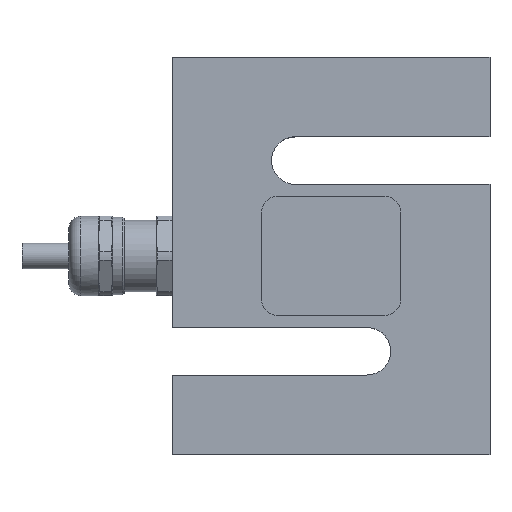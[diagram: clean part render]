
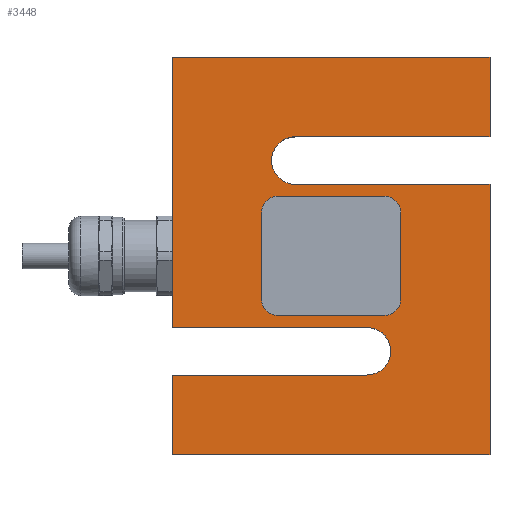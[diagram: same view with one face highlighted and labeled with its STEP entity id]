
A CAD part, top view. The second image highlights one B-rep face of the part: STEP entity #3448.
In plain terms, the highlighted planar face has unit normal (0, 0, 1).
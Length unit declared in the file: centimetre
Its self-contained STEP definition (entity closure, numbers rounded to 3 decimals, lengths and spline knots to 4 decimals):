
#845=VECTOR('',#3992,1.);
#848=VECTOR('',#4000,1.);
#857=VECTOR('',#4030,1.);
#862=VECTOR('',#4053,1.);
#869=VECTOR('',#4075,1.);
#874=VECTOR('',#4095,1.);
#881=VECTOR('',#4117,1.);
#882=VECTOR('',#4119,1.);
#887=VECTOR('',#4125,1.);
#889=VECTOR('',#4128,1.);
#890=VECTOR('',#4129,1.);
#891=VECTOR('',#4130,1.);
#1051=LINE('',#4827,#845);
#1054=LINE('',#4835,#848);
#1063=LINE('',#4866,#857);
#1068=LINE('',#4888,#862);
#1075=LINE('',#4908,#869);
#1080=LINE('',#4931,#874);
#1087=LINE('',#5057,#881);
#1088=LINE('',#5059,#882);
#1093=LINE('',#5069,#887);
#1095=LINE('',#5074,#889);
#1096=LINE('',#5075,#890);
#1097=LINE('',#5077,#891);
#1264=VERTEX_POINT('',#4820);
#1265=VERTEX_POINT('',#4822);
#1266=VERTEX_POINT('',#4826);
#1267=VERTEX_POINT('',#4830);
#1268=VERTEX_POINT('',#4834);
#1278=VERTEX_POINT('',#4865);
#1279=VERTEX_POINT('',#4867);
#1284=VERTEX_POINT('',#4883);
#1285=VERTEX_POINT('',#4885);
#1289=VERTEX_POINT('',#4903);
#1294=VERTEX_POINT('',#4921);
#1299=VERTEX_POINT('',#4930);
#1301=VERTEX_POINT('',#4986);
#1304=VERTEX_POINT('',#5042);
#1305=VERTEX_POINT('',#5044);
#1310=VERTEX_POINT('',#5056);
#1311=VERTEX_POINT('',#5060);
#1314=VERTEX_POINT('',#5068);
#1315=VERTEX_POINT('',#5070);
#1317=VERTEX_POINT('',#5076);
#1545=CIRCLE('',#3610,0.4);
#1546=CIRCLE('',#3613,0.4);
#1555=CIRCLE('',#3635,0.4);
#1558=CIRCLE('',#3643,0.4);
#1564=CIRCLE('',#3656,0.6);
#1565=CIRCLE('',#3658,0.6);
#1713=EDGE_CURVE('',#1264,#1265,#1545,.T.);
#1716=EDGE_CURVE('',#1264,#1266,#1051,.T.);
#1718=EDGE_CURVE('',#1267,#1266,#1546,.T.);
#1720=EDGE_CURVE('',#1267,#1268,#1054,.T.);
#1734=EDGE_CURVE('',#1278,#1279,#1063,.T.);
#1741=EDGE_CURVE('',#1284,#1285,#1555,.T.);
#1743=EDGE_CURVE('',#1284,#1265,#1068,.T.);
#1751=EDGE_CURVE('',#1289,#1268,#1558,.T.);
#1753=EDGE_CURVE('',#1289,#1285,#1075,.T.);
#1763=EDGE_CURVE('',#1294,#1299,#1080,.T.);
#1766=EDGE_CURVE('',#1294,#1301,#1564,.T.);
#1770=EDGE_CURVE('',#1304,#1305,#1565,.T.);
#1778=EDGE_CURVE('',#1304,#1310,#1087,.T.);
#1779=EDGE_CURVE('',#1311,#1301,#1088,.T.);
#1784=EDGE_CURVE('',#1314,#1299,#1093,.T.);
#1785=EDGE_CURVE('',#1311,#1315,#1093,.T.);
#1788=EDGE_CURVE('',#1279,#1314,#1095,.T.);
#1789=EDGE_CURVE('',#1278,#1305,#1096,.T.);
#1790=EDGE_CURVE('',#1317,#1310,#1063,.T.);
#1791=EDGE_CURVE('',#1315,#1317,#1097,.T.);
#2251=ORIENTED_EDGE('',*,*,#1753,.T.);
#2252=ORIENTED_EDGE('',*,*,#1741,.F.);
#2253=ORIENTED_EDGE('',*,*,#1743,.T.);
#2254=ORIENTED_EDGE('',*,*,#1713,.F.);
#2255=ORIENTED_EDGE('',*,*,#1716,.T.);
#2256=ORIENTED_EDGE('',*,*,#1718,.F.);
#2257=ORIENTED_EDGE('',*,*,#1720,.T.);
#2258=ORIENTED_EDGE('',*,*,#1751,.F.);
#2259=ORIENTED_EDGE('',*,*,#1779,.T.);
#2260=ORIENTED_EDGE('',*,*,#1766,.F.);
#2261=ORIENTED_EDGE('',*,*,#1763,.T.);
#2262=ORIENTED_EDGE('',*,*,#1784,.F.);
#2263=ORIENTED_EDGE('',*,*,#1788,.F.);
#2264=ORIENTED_EDGE('',*,*,#1734,.F.);
#2265=ORIENTED_EDGE('',*,*,#1789,.T.);
#2266=ORIENTED_EDGE('',*,*,#1770,.F.);
#2267=ORIENTED_EDGE('',*,*,#1778,.T.);
#2268=ORIENTED_EDGE('',*,*,#1790,.F.);
#2269=ORIENTED_EDGE('',*,*,#1791,.F.);
#2270=ORIENTED_EDGE('',*,*,#1785,.F.);
#2981=EDGE_LOOP('',(#2251,#2252,#2253,#2254,#2255,#2256,#2257,#2258));
#2982=EDGE_LOOP('',(#2259,#2260,#2261,#2262,#2263,#2264,#2265,#2266,#2267,
#2268,#2269,#2270));
#3219=FACE_BOUND('',#2981,.T.);
#3220=FACE_BOUND('',#2982,.T.);
#3448=ADVANCED_FACE('',(#3219,#3220),#6016,.T.);
#3610=AXIS2_PLACEMENT_3D('',#4821,#3987,#3988);
#3613=AXIS2_PLACEMENT_3D('',#4831,#3996,#3997);
#3635=AXIS2_PLACEMENT_3D('',#4884,#4049,#4050);
#3643=AXIS2_PLACEMENT_3D('',#4904,#4070,#4071);
#3656=AXIS2_PLACEMENT_3D('',#4985,#4100,#4101);
#3658=AXIS2_PLACEMENT_3D('',#5043,#4106,#4107);
#3664=AXIS2_PLACEMENT_3D('',#5073,#4127,$);
#3987=DIRECTION('',(0.,0.,1.));
#3988=DIRECTION('',(-0.283,-0.283,0.));
#3992=DIRECTION('',(0.,1.,0.));
#3996=DIRECTION('',(0.,0.,1.));
#3997=DIRECTION('',(-0.283,0.283,0.));
#4000=DIRECTION('',(1.,0.,0.));
#4030=DIRECTION('',(0.,-1.,0.));
#4049=DIRECTION('',(0.,0.,1.));
#4050=DIRECTION('',(0.283,-0.283,0.));
#4053=DIRECTION('',(-1.,0.,0.));
#4070=DIRECTION('',(0.,0.,1.));
#4071=DIRECTION('',(0.283,0.283,0.));
#4075=DIRECTION('',(0.,-1.,0.));
#4095=DIRECTION('',(-1.,0.,0.));
#4100=DIRECTION('',(0.,0.,1.));
#4101=DIRECTION('',(0.424,0.424,0.));
#4106=DIRECTION('',(0.,0.,1.));
#4107=DIRECTION('',(-0.424,0.424,0.));
#4117=DIRECTION('',(1.,0.,0.));
#4119=DIRECTION('',(1.,0.,0.));
#4125=DIRECTION('',(0.,1.,0.));
#4127=DIRECTION('',(0.,0.,1.));
#4128=DIRECTION('',(-1.,0.,0.));
#4129=DIRECTION('',(-1.,0.,0.));
#4130=DIRECTION('',(1.,0.,0.));
#4820=CARTESIAN_POINT('',(-1.75,-1.1,1.5));
#4821=CARTESIAN_POINT('',(-1.35,-1.1,1.5));
#4822=CARTESIAN_POINT('',(-1.35,-1.5,1.5));
#4826=CARTESIAN_POINT('',(-1.75,1.1,1.5));
#4827=CARTESIAN_POINT('',(-1.75,0.,1.5));
#4830=CARTESIAN_POINT('',(-1.35,1.5,1.5));
#4831=CARTESIAN_POINT('',(-1.35,1.1,1.5));
#4834=CARTESIAN_POINT('',(1.35,1.5,1.5));
#4835=CARTESIAN_POINT('',(0.,1.5,1.5));
#4865=CARTESIAN_POINT('',(4.,1.8,1.5));
#4866=CARTESIAN_POINT('',(4.,-5.,1.5));
#4867=CARTESIAN_POINT('',(4.,-5.,1.5));
#4883=CARTESIAN_POINT('',(1.35,-1.5,1.5));
#4884=CARTESIAN_POINT('',(1.35,-1.1,1.5));
#4885=CARTESIAN_POINT('',(1.75,-1.1,1.5));
#4888=CARTESIAN_POINT('',(0.,-1.5,1.5));
#4903=CARTESIAN_POINT('',(1.75,1.1,1.5));
#4904=CARTESIAN_POINT('',(1.35,1.1,1.5));
#4908=CARTESIAN_POINT('',(1.75,0.,1.5));
#4921=CARTESIAN_POINT('',(0.9,-3.,1.5));
#4930=CARTESIAN_POINT('',(-4.,-3.,1.5));
#4931=CARTESIAN_POINT('',(-0.625,-3.,1.5));
#4985=CARTESIAN_POINT('',(0.9,-2.4,1.5));
#4986=CARTESIAN_POINT('',(0.9,-1.8,1.5));
#5042=CARTESIAN_POINT('',(-0.9,3.,1.5));
#5043=CARTESIAN_POINT('',(-0.9,2.4,1.5));
#5044=CARTESIAN_POINT('',(-0.9,1.8,1.5));
#5056=CARTESIAN_POINT('',(4.,3.,1.5));
#5057=CARTESIAN_POINT('',(0.625,3.,1.5));
#5059=CARTESIAN_POINT('',(-0.625,-1.8,1.5));
#5060=CARTESIAN_POINT('',(-4.,-1.8,1.5));
#5068=CARTESIAN_POINT('',(-4.,-5.,1.5));
#5069=CARTESIAN_POINT('',(-4.,5.,1.5));
#5070=CARTESIAN_POINT('',(-4.,5.,1.5));
#5073=CARTESIAN_POINT('',(0.,0.,1.5));
#5074=CARTESIAN_POINT('',(-4.,-5.,1.5));
#5075=CARTESIAN_POINT('',(0.625,1.8,1.5));
#5076=CARTESIAN_POINT('',(4.,5.,1.5));
#5077=CARTESIAN_POINT('',(4.,5.,1.5));
#6016=PLANE('',#3664);
